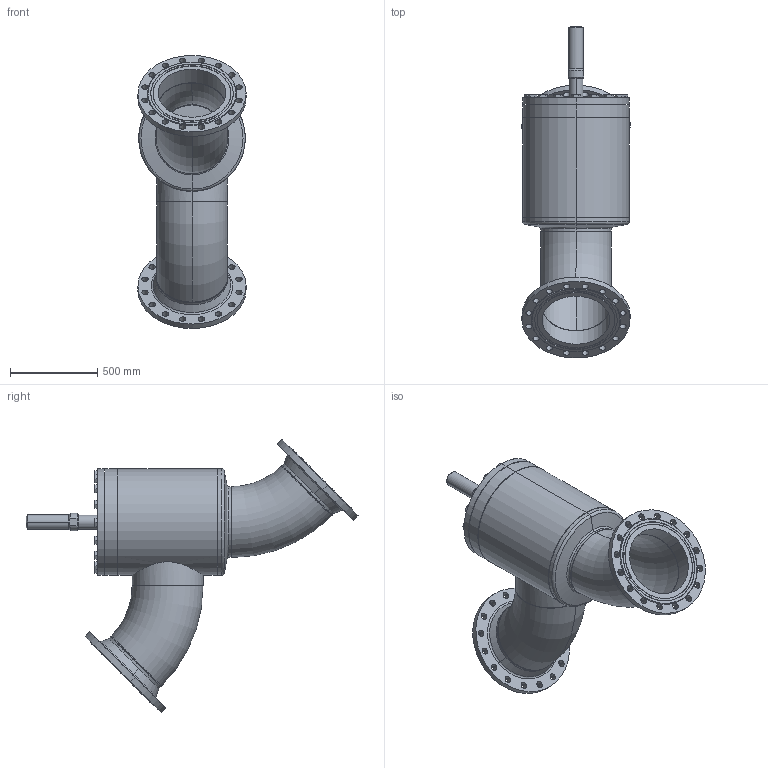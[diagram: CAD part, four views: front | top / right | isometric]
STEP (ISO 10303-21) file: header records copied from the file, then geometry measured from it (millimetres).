
FILE_DESCRIPTION (( 'STEP AP214' ), '1' );
FILE_NAME ('AVR26320C27-DN400_DIN-FL-N_PS25.STEP', '2006-04-28T08:32:31', ( 'Herr Grams' ), ( 'AWP GmbH' ), 'SwSTEP 2.0', 'SolidWorks 2002296', '' );
FILE_SCHEMA (( 'AUTOMOTIVE_DESIGN' ));
Length unit declared in the file: millimetre
Products named in the file (22): AVR26320C27-DN400_DIN-FL-N_PS25; AVR26300B27_Deck+Schr-DN400_Standard; Deckel-kpl26300-DN400_Standard; Buchse1 f Deckel26300-DN400_Standard; bead-deck263-400_Standard; Scheibe f Deckel26300-DN400_Standard; Sechskantschraube-DIN933_M30x 80; Gehäuse-kpl26320-DN400_DIN_PS25_Standard; Gehäuse-kpl26300-DN400_R1_Standard; Boden26300-DN400_Standard; Kopfstück26300-DN400_Standard; Gehäuse26300-DN400_Standard; Rohrstutzen-A26300-DN400_R1_Standard; Rohrbogen 45°_Rohrbogen-DN400-45°; bead-DN400-4_Standard; bead-DN400-2_Standard; bead-DN400-1_Standard; bead-DN400-3_Standard; Flansch-DIN2634-Nut_PS25_DIN-Flansch-DN400_PS25-Nut; bead-DN400-7_Standard; bead-DN400-6_Standard; Kappe26300_DN400geschw_Standard
Assembly tree (38 placements, depth 4):
  AVR26320C27-DN400_DIN-FL-N_PS25
    Kappe26300_DN400geschw_Standard
    Gehäuse-kpl26320-DN400_DIN_PS25_Standard
      Flansch-DIN2634-Nut_PS25_DIN-Flansch-DN400_PS25-Nut  x2
      bead-DN400-6_Standard
      Gehäuse-kpl26300-DN400_R1_Standard
        Rohrbogen 45°_Rohrbogen-DN400-45°  x2
        bead-DN400-2_Standard
        Gehäuse26300-DN400_Standard
        bead-DN400-4_Standard
        Boden26300-DN400_Standard
        Kopfstück26300-DN400_Standard
        Rohrstutzen-A26300-DN400_R1_Standard
        bead-DN400-1_Standard
        bead-DN400-3_Standard
      bead-DN400-7_Standard
    AVR26300B27_Deck+Schr-DN400_Standard
      Sechskantschraube-DIN933_M30x 80  x16
      Deckel-kpl26300-DN400_Standard
        Scheibe f Deckel26300-DN400_Standard
        Buchse1 f Deckel26300-DN400_Standard
        bead-deck263-400_Standard
Bounding box: 619.85 x 1904.15 x 1565.62 mm (x, y, z)
Volume: 84226699.4 mm3; surface area: 9103588.1 mm2
Topology: 34 solids, 34 shells, 709 faces, 1562 edges, 954 vertices
Faces by surface type: cone 260, cylinder 209, plane 200, bspline 24, torus 16
Entity records: 13908 total; most frequent: CARTESIAN_POINT 6509, DIRECTION 1420, ORIENTED_EDGE 1252, EDGE_CURVE 626, AXIS2_PLACEMENT_3D 621, VERTEX_POINT 402, EDGE_LOOP 382, CIRCLE 328
